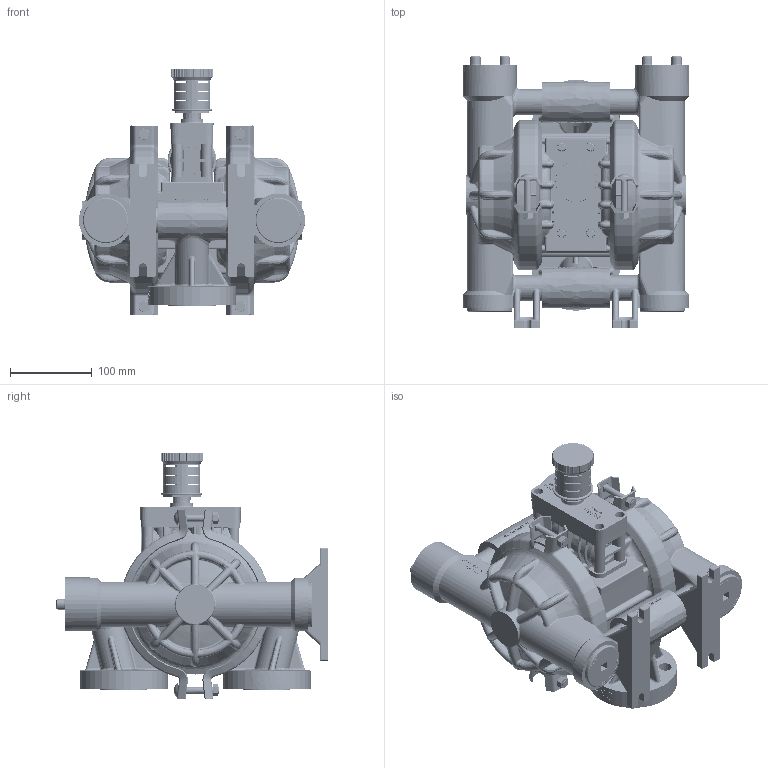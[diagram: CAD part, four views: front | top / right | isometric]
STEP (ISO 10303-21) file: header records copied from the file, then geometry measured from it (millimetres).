
FILE_DESCRIPTION((''),'2;1');
FILE_NAME('P2R_PLASTIC_TOP_SW0001','2011-08-17T',('Nathan.Hale'),(''),'PRO/ENGINEER BY PARAMETRIC TECHNOLOGY CORPORATION, 2008400','PRO/ENGINEER BY PARAMETRIC TECHNOLOGY CORPORATION, 2008400','');
FILE_SCHEMA(('CONFIG_CONTROL_DESIGN'));
Products named in the file (1): P2R_PLASTIC_TOP_SW0001
Bounding box: 277.22 x 332.59 x 301.96 mm (x, y, z)
Volume: 3941951.9 mm3; surface area: 981843.5 mm2
Topology: 5 solids, 5 shells, 10613 faces, 28328 edges, 18099 vertices
Faces by surface type: plane 7156, bspline 1110, cylinder 1014, cone 554, torus 486, sphere 285, extrusion 8
Entity records: 489903 total; most frequent: CARTESIAN_POINT 235286, ORIENTED_EDGE 56620, DIRECTION 47225, EDGE_CURVE 28310, VECTOR 19663, LINE 19655, VERTEX_POINT 18099, AXIS2_PLACEMENT_3D 13781
